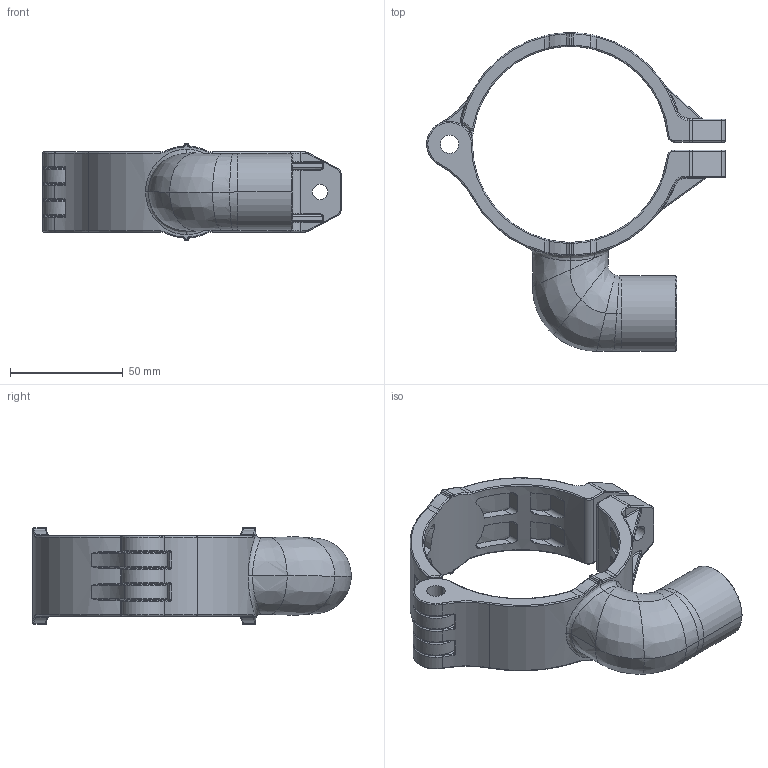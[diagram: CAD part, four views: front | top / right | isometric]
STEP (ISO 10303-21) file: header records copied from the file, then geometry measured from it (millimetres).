
FILE_DESCRIPTION((''),'2;1');
FILE_NAME('AU15711100_ASM_5_ASM','2017-05-15T',('Administrator'),(''),'PRO/ENGINEER BY PARAMETRIC TECHNOLOGY CORPORATION, 2009360','PRO/ENGINEER BY PARAMETRIC TECHNOLOGY CORPORATION, 2009360','');
FILE_SCHEMA(('AUTOMOTIVE_DESIGN_CC2 { 1 2 10303 214 -1 1 5 2 }'));
Length unit declared in the file: millimetre
Products named in the file (3): 2017_7111_00_00_1; PRT0001; AU15711100_ASM_5_ASM
Assembly tree (2 placements, depth 2):
  AU15711100_ASM_5_ASM
    2017_7111_00_00_1
    PRT0001
Bounding box: 132.14 x 140.96 x 42.81 mm (x, y, z)
Volume: 107402.3 mm3; surface area: 47257.4 mm2
Topology: 2 solids, 2 shells, 612 faces, 1528 edges, 923 vertices
Faces by surface type: cylinder 243, bspline 134, torus 110, plane 105, sphere 16, cone 4
Entity records: 31783 total; most frequent: CARTESIAN_POINT 13605, ORIENTED_EDGE 3024, DIRECTION 2625, PRESENTATION_STYLE_ASSIGNMENT 1514, STYLED_ITEM 1514, CURVE_STYLE 1512, EDGE_CURVE 1512, AXIS2_PLACEMENT_3D 1091
